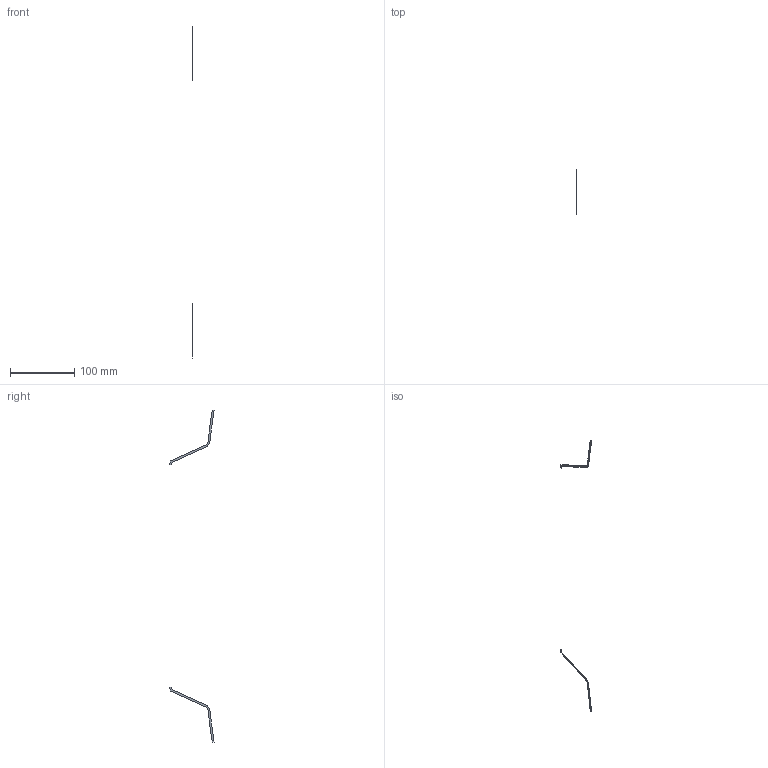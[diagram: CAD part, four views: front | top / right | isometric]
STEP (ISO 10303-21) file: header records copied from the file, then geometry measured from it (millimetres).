
FILE_DESCRIPTION(('Open CASCADE Model'),'2;1');
FILE_NAME('Open CASCADE Shape Model','2026-10-14T14:24:19',('Author'),( 'Open CASCADE'),'Open CASCADE STEP processor 7.8','Open CASCADE 7.8' ,'Unknown');
FILE_SCHEMA(('AUTOMOTIVE_DESIGN { 1 0 10303 214 1 1 1 1 }'));
Length unit declared in the file: millimetre
Products named in the file (3): Open CASCADE STEP translator 7.8 3; Open CASCADE STEP translator 7.8 3.1; Open CASCADE STEP translator 7.8 3.2
Assembly tree (2 placements, depth 2):
  Open CASCADE STEP translator 7.8 3
    Open CASCADE STEP translator 7.8 3.1
    Open CASCADE STEP translator 7.8 3.2
Bounding box: 0 x 68.68 x 515 mm (x, y, z)
Surface area: 732.3 mm2 (no closed solid volume)
Topology: 0 solids, 2 shells, 2 faces, 22 edges, 22 vertices
Faces by surface type: plane 2
Entity records: 574 total; most frequent: CARTESIAN_POINT 263, DIRECTION 50, ORIENTED_EDGE 22, EDGE_CURVE 22, VERTEX_POINT 22, SURFACE_CURVE 22, PCURVE 22, DEFINITIONAL_REPRESENTATION 22
